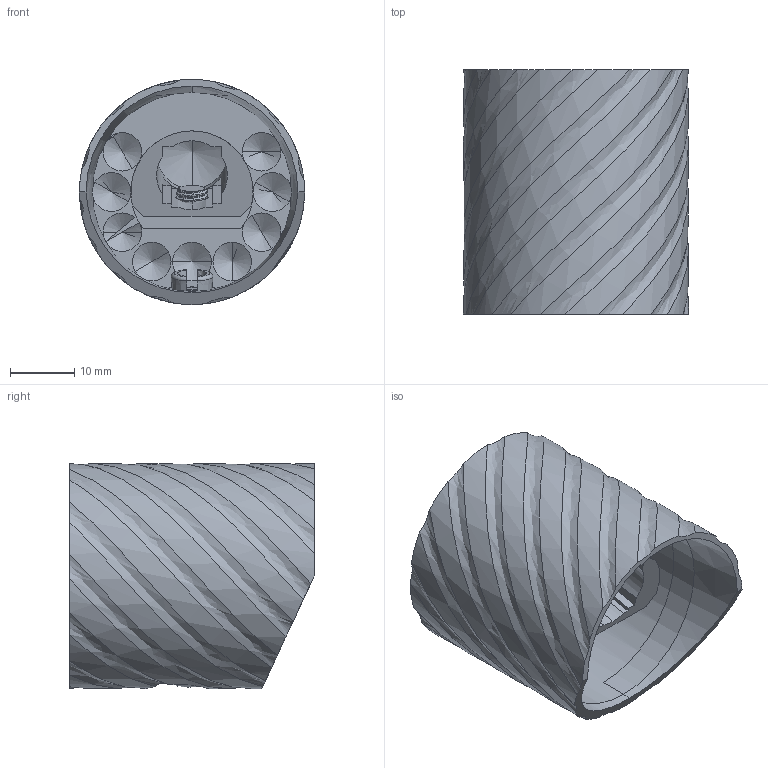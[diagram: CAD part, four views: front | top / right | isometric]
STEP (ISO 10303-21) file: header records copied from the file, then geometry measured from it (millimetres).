
FILE_DESCRIPTION((''),'2;1');
FILE_NAME('12090_ASM','2026-09-17T13:57:05',('carloff'),(''),'CREO PARAMETRIC BY PTC INC, 2025443','CREO PARAMETRIC BY PTC INC, 2025443','');
FILE_SCHEMA(('CONFIG_CONTROL_DESIGN'));
Length unit declared in the file: millimetre
Products named in the file (5): D500001016; A511000170; A536A80109; P765XX0331_ASM; 12090_ASM
Assembly tree (4 placements, depth 3):
  12090_ASM
    D500001016
    P765XX0331_ASM
      A511000170
      A536A80109
Bounding box: 35 x 38 x 35 mm (x, y, z)
Volume: 17728.1 mm3; surface area: 11227.3 mm2
Topology: 3 solids, 5 shells, 201 faces, 541 edges, 325 vertices
Faces by surface type: cylinder 80, plane 50, cone 31, bspline 22, torus 10, sphere 8
Entity records: 10892 total; most frequent: CARTESIAN_POINT 6038, ORIENTED_EDGE 1030, DIRECTION 955, EDGE_CURVE 519, AXIS2_PLACEMENT_3D 386, VERTEX_POINT 325, EDGE_LOOP 206, FACE_OUTER_BOUND 201
